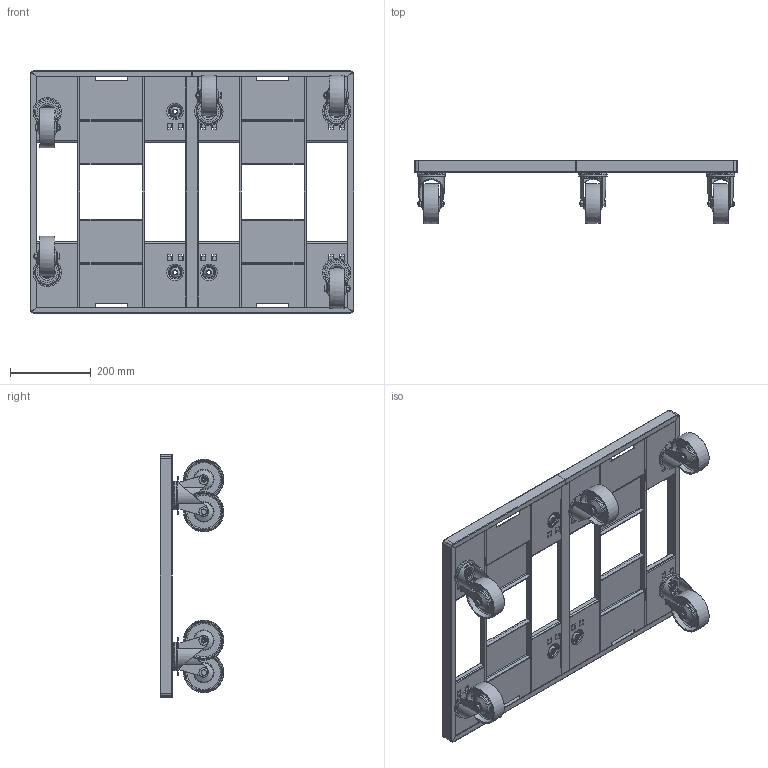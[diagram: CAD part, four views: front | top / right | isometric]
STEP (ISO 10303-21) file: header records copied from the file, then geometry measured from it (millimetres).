
FILE_DESCRIPTION(/* description */ ('STEP AP214'),/* implementation_level */ '2;1');
FILE_NAME(/* name */ '0207D08006001',/* time_stamp */ '2026-01-21T14:35:48+01:00',/* author */ ('License CC BY-ND 4.0'),/* organization */ ('CADENAS'),/* preprocessor_version */ 'ST-DEVELOPER v20',/* originating_system */ 'PARTsolutions',/* authorisation */ ' ');
FILE_SCHEMA (('AUTOMOTIVE_DESIGN {1 0 10303 214 3 1 1}'));
Length unit declared in the file: millimetre
Products named in the file (4): 0207D08006001;  0207D08006001body; 0207D08006001BOLT; 0207D08006001wheel
Assembly tree (11 placements, depth 2):
  0207D08006001
     0207D08006001body
    0207D08006001BOLT  x5
    0207D08006001wheel  x5
Bounding box: 800 x 157.42 x 600 mm (x, y, z)
Volume: 3225388.9 mm3; surface area: 1323729.9 mm2
Topology: 11 solids, 11 shells, 1204 faces, 3053 edges, 1916 vertices
Faces by surface type: plane 700, cylinder 195, torus 167, cone 142
Full cylindrical faces by diameter (mm): 8 x5, 8.5 x5, 10 x5, 10.5 x8, 12.5 x8, 13 x5, 18.1 x5, 18.5 x5, 20 x5, 27 x5, 50 x5, 59 x5, 63 x5, 70 x5
Entity records: 20950 total; most frequent: CARTESIAN_POINT 3645, ORIENTED_EDGE 3308, DIRECTION 3258, EDGE_CURVE 1654, LINE 1298, VECTOR 1298, VERTEX_POINT 1124, AXIS2_PLACEMENT_3D 980
